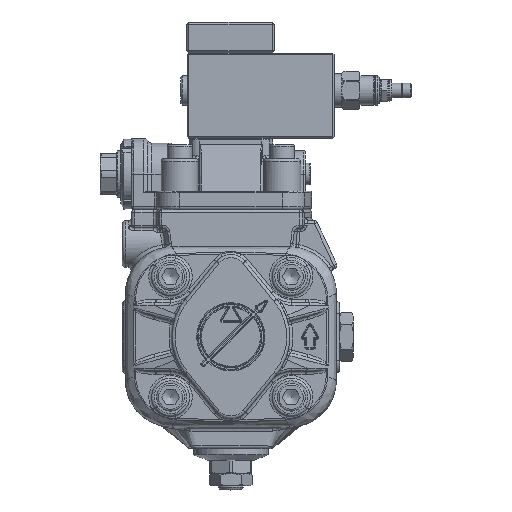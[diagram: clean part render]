
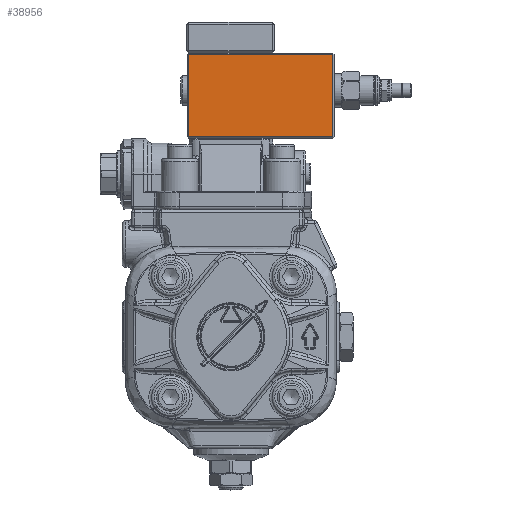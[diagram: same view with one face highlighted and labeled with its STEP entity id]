
A CAD part, top view. The second image highlights one B-rep face of the part: STEP entity #38956.
In plain terms, the highlighted planar face has unit normal (0, 0, 1).
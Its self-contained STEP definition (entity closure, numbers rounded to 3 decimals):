
#4723=FACE_OUTER_BOUND('',#7118,.T.);
#7118=EDGE_LOOP('',(#25304,#25305,#25306,#25307));
#10503=LINE('',#58255,#12653);
#10505=LINE('',#58259,#12655);
#10508=LINE('',#58263,#12658);
#10514=LINE('',#58274,#12664);
#12653=VECTOR('',#46781,10.);
#12655=VECTOR('',#46787,10.);
#12658=VECTOR('',#46792,10.);
#12664=VECTOR('',#46808,10.);
#14967=VERTEX_POINT('',#58227);
#14968=VERTEX_POINT('',#58231);
#14973=VERTEX_POINT('',#58245);
#14975=VERTEX_POINT('',#58250);
#18779=EDGE_CURVE('',#14975,#14973,#10503,.T.);
#18781=EDGE_CURVE('',#14968,#14975,#10505,.T.);
#18784=EDGE_CURVE('',#14973,#14967,#10508,.T.);
#18790=EDGE_CURVE('',#14967,#14968,#10514,.T.);
#25304=ORIENTED_EDGE('',*,*,#18779,.F.);
#25305=ORIENTED_EDGE('',*,*,#18781,.F.);
#25306=ORIENTED_EDGE('',*,*,#18790,.F.);
#25307=ORIENTED_EDGE('',*,*,#18784,.F.);
#35658=PLANE('',#41616);
#38956=ADVANCED_FACE('',(#4723),#35658,.T.);
#41616=AXIS2_PLACEMENT_3D('',#58284,#46821,#46822);
#46781=DIRECTION('',(1.,0.,0.));
#46787=DIRECTION('',(0.,1.,0.));
#46792=DIRECTION('',(0.,-1.,0.));
#46808=DIRECTION('',(-1.,0.,0.));
#46821=DIRECTION('center_axis',(0.,0.,
1.));
#46822=DIRECTION('ref_axis',(0.,1.,0.));
#58227=CARTESIAN_POINT('',(59.21,116.996,41.252));
#58231=CARTESIAN_POINT('',(-33.79,116.996,41.252));
#58245=CARTESIAN_POINT('',(59.21,169.996,41.252));
#58250=CARTESIAN_POINT('',(-33.79,169.996,41.252));
#58255=CARTESIAN_POINT('',(-11.04,169.996,41.252));
#58259=CARTESIAN_POINT('',(-33.79,170.996,41.252));
#58263=CARTESIAN_POINT('',(59.21,170.996,41.252));
#58274=CARTESIAN_POINT('',(-11.04,116.996,41.252));
#58284=CARTESIAN_POINT('Origin',(-34.79,170.996,41.252));
